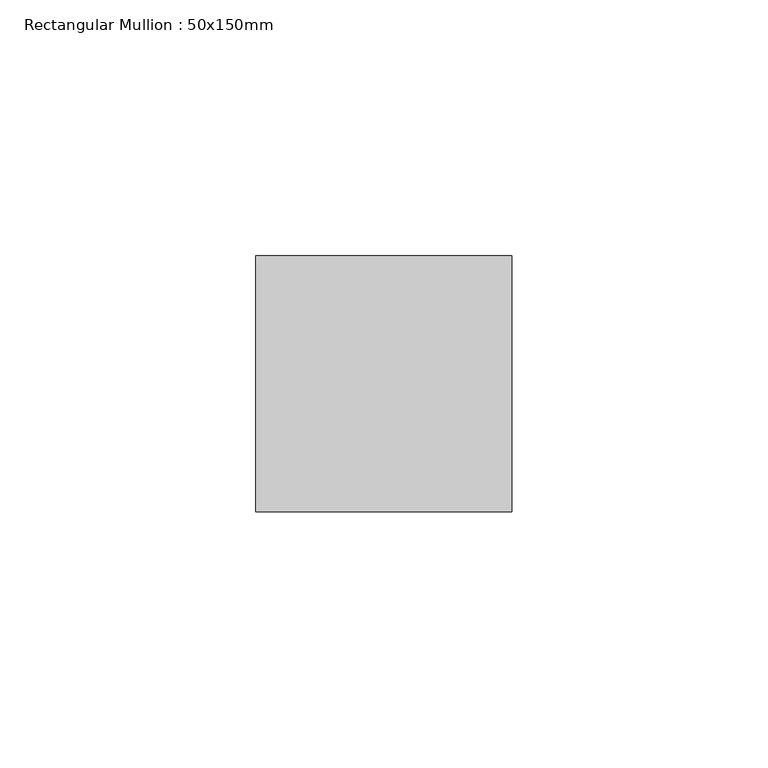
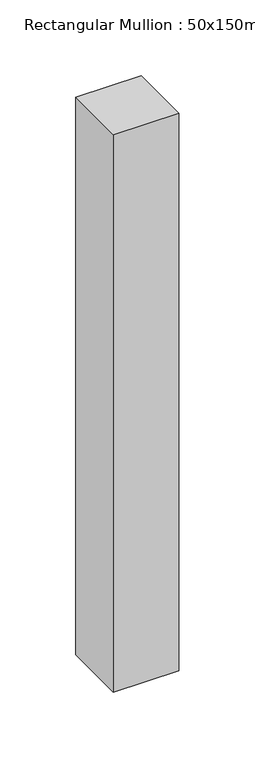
"""IFC4 building model written with IfcOpenShell, lengths in millimetres: member geometry, Rectangular Mullion : 50x150mm."""

from ifc_helpers import new_model, si_unit, frame, origin, place, context, project, spatial, polyline, outline, extrude, source, transform, mapped, element, save


def rectangular_mullion_50x150mm_e39ed394(model_context):
    return source(origin(), model_context, "Body", "SweptSolid", [
        extrude(outline(polyline([(0.0, 25.0), (0.0, -25.0), (-50.0, -25.0), (-50.0, 25.0), (0.0, 25.0)])), frame((0.0, 0.0, -450.0), z_axis=(0.0, 0.0, 1.0), x_axis=(1.0, 0.0, 0.0)), (0.0, 0.0, 1.0), 450.0),
    ])


if __name__ == "__main__":
    model = new_model("IFC4")
    model_context = context("Model", 3, world=origin())
    ifc_project = project(units=[si_unit("LENGTHUNIT", "METRE", prefix="MILLI")], contexts=[model_context])
    site = spatial("IfcSite", under=ifc_project)
    building = spatial("IfcBuilding", under=site)
    placement = place(None, origin())
    rectangular_mullion_50x150mm_shape = rectangular_mullion_50x150mm_e39ed394(model_context)
    element("IfcMember", 1, ObjectType="Rectangular Mullion : 50x150mm", at=placement, inside=building, context=model_context, shape_type="MappedRepresentation", body=[
        mapped(rectangular_mullion_50x150mm_shape, transform((0.0, 0.0, 0.0), x_axis=(1.0, 0.0, 0.0), y_axis=(0.0, 1.0, 0.0), z_axis=(0.0, 0.0, 1.0))),
    ])
    save(model, "model.ifc")
